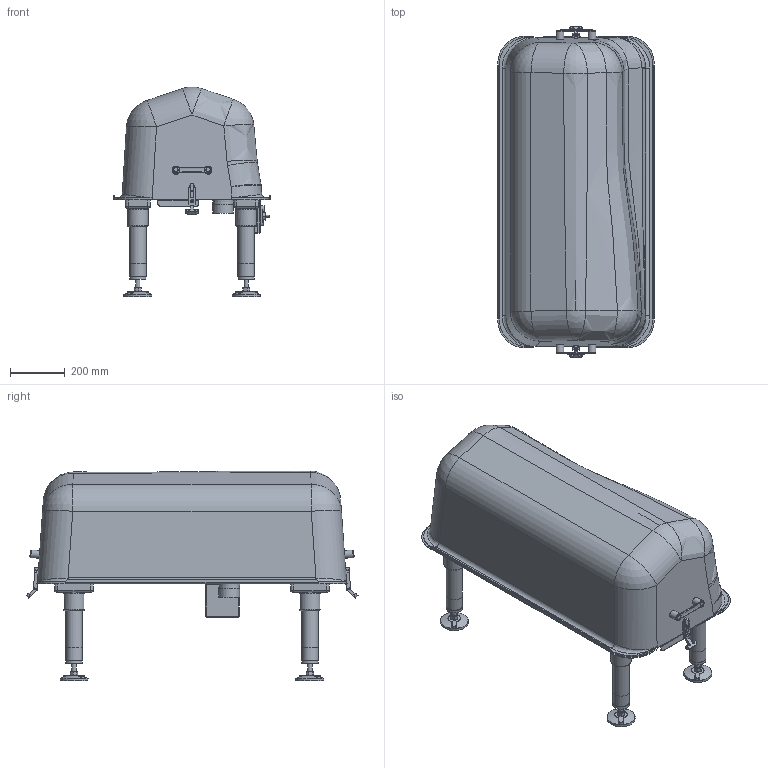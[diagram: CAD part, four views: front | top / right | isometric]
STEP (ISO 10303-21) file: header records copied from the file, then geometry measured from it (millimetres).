
FILE_DESCRIPTION(/* description */ (''),/* implementation_level */ '2;1');
FILE_NAME(/* name */ 'T:\Drawings\Standard Drawings\DATA Web Downloads\3D FILES\MSX _ 3D11-0068.stp',/* time_stamp */ '2015-02-19T16:15:12+00:00',/* author */ ('mtinkler'),/* organization */ (''),/* preprocessor_version */ 'ST-DEVELOPER v15.6',/* originating_system */ 'Autodesk Inventor 2015',/* authorisation */ '');
FILE_SCHEMA (('AUTOMOTIVE_DESIGN { 1 0 10303 214 3 1 1 }'));
Products named in the file (1): 3D11-0068
Bounding box: 570 x 1208.95 x 764.67 mm (x, y, z)
Volume: 69176012.7 mm3; surface area: 9350444.5 mm2
Topology: 56 solids, 56 shells, 1574 faces, 4001 edges, 2547 vertices
Faces by surface type: plane 788, cylinder 545, bspline 113, torus 71, cone 31, sphere 26
Full cylindrical faces by diameter (mm): 4.134 x4, 5 x15, 5.2 x8, 5.5 x6, 6.2 x4, 6.35 x12, 7.938 x2, 8.5 x16, 9 x31, 9.5 x1, 10 x6, 11 x8, 12.5 x4, 13 x1, 16 x13, 17 x1, 20 x5, 22 x1, 22.2 x1, 25 x1, 28 x5, 56 x4, 57 x4, 60 x12, 65 x1, 69.2 x1, 71 x2, 72.5 x1, 75 x5, 75.5 x1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
Entity records: 64498 total; most frequent: CARTESIAN_POINT 26751, DIRECTION 7662, ORIENTED_EDGE 7242, EDGE_CURVE 3621, AXIS2_PLACEMENT_3D 2805, VERTEX_POINT 2444, EDGE_LOOP 2117, LINE 2052
